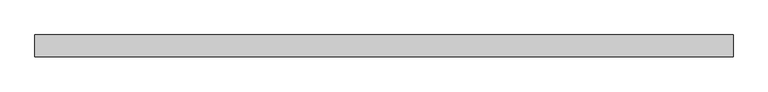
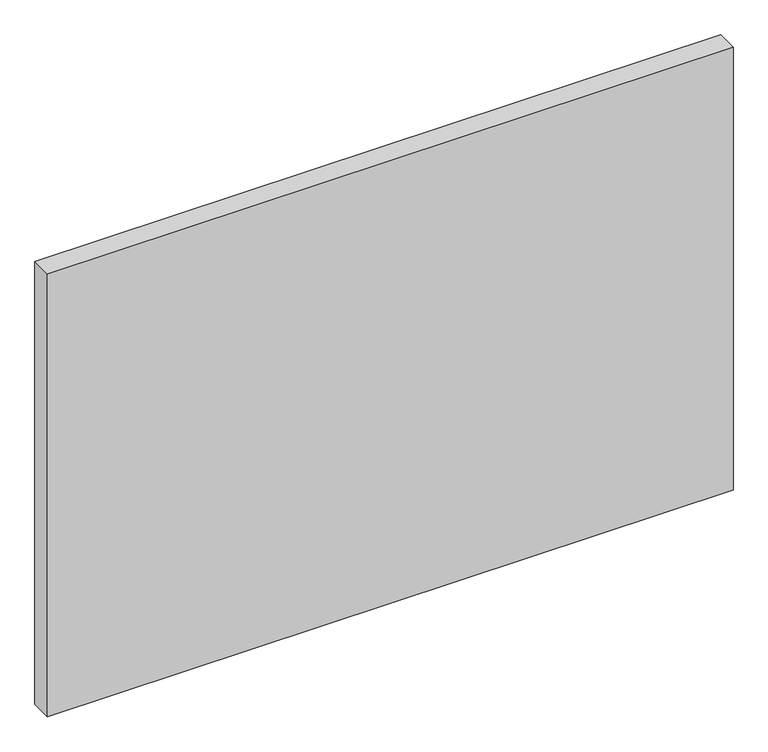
"""IFC4 building model written with IfcOpenShell, lengths in millimetres: plate geometry, Системная панель : Стекло(50мм)."""

from ifc_helpers import new_model, si_unit, origin, origin_with_axes, place, context, project, spatial, polyline, outline, extrude, source, transform, mapped, element, save


def plate_b91d36d7(model_context):
    return source(origin(), model_context, "Body", "SweptSolid", [
        extrude(outline(polyline([(794.3168429, -25.0), (-794.3168429, -25.0), (-794.3168429, 25.0), (794.3168429, 25.0), (794.3168429, -25.0)])), origin_with_axes(), (0.0, 0.0, 1.0), 1085.0),
    ])


if __name__ == "__main__":
    model = new_model("IFC4")
    model_context = context("Model", 3, world=origin())
    ifc_project = project(units=[si_unit("LENGTHUNIT", "METRE", prefix="MILLI")], contexts=[model_context])
    site = spatial("IfcSite", under=ifc_project)
    building = spatial("IfcBuilding", under=site)
    placement = place(None, origin())
    plate_shape = plate_b91d36d7(model_context)
    element("IfcPlate", 1, ObjectType="Системная панель : Стекло(50мм)", at=placement, inside=building, context=model_context, shape_type="MappedRepresentation", body=[
        mapped(plate_shape, transform((0.0, 0.0, 0.0), x_axis=(1.0, 0.0, 0.0), y_axis=(0.0, 1.0, 0.0), z_axis=(0.0, 0.0, 1.0))),
    ])
    save(model, "model.ifc")
